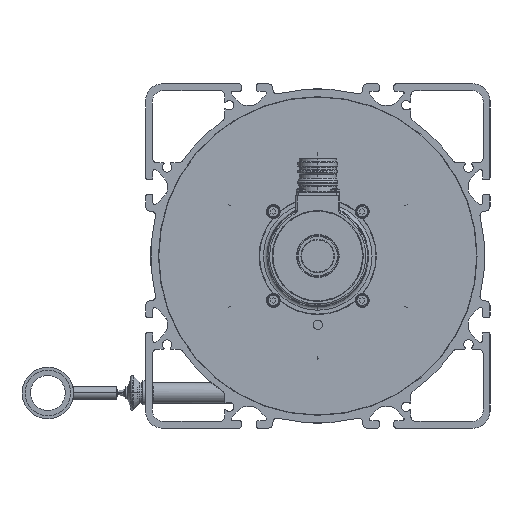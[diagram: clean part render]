
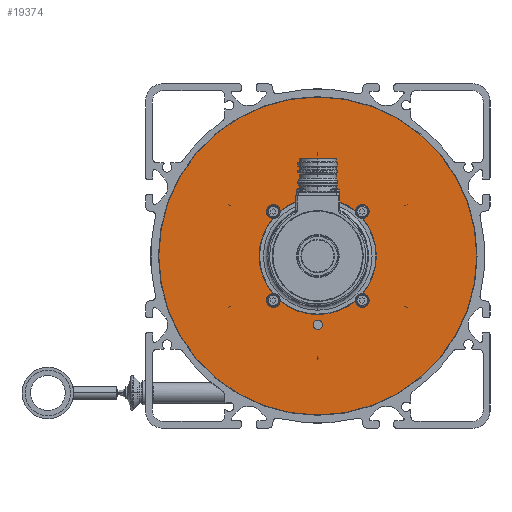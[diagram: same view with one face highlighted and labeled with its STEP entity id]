
A CAD part, left-side view. The second image highlights one B-rep face of the part: STEP entity #19374.
In plain terms, the highlighted planar face has unit normal (-1, 0, 0) as drawn and (1, 0, 0) by its records, which use the part's own axes.
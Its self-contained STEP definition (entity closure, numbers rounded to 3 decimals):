
#18146=CARTESIAN_POINT('',(8.,0.,0.));
#18147=DIRECTION('',(-1.,0.,0.));
#18148=DIRECTION('',(0.,1.,0.));
#18149=AXIS2_PLACEMENT_3D('',#18146,#18147,#18148);
#18154=CARTESIAN_POINT('',(8.,0.,0.));
#18155=DIRECTION('',(1.,0.,0.));
#18156=DIRECTION('',(0.,1.,0.));
#18157=AXIS2_PLACEMENT_3D('',#18154,#18155,#18156);
#18162=CARTESIAN_POINT('',(8.,-25.809,-25.809));
#18163=DIRECTION('',(1.,0.,0.));
#18164=DIRECTION('',(0.,-1.,0.));
#18165=AXIS2_PLACEMENT_3D('',#18162,#18163,#18164);
#18170=CARTESIAN_POINT('',(8.,-25.809,-25.809));
#18171=DIRECTION('',(1.,0.,0.));
#18172=DIRECTION('',(0.,1.,0.));
#18173=AXIS2_PLACEMENT_3D('',#18170,#18171,#18172);
#18178=CARTESIAN_POINT('',(8.,-25.809,25.809));
#18179=DIRECTION('',(1.,0.,0.));
#18180=DIRECTION('',(0.,0.,1.));
#18181=AXIS2_PLACEMENT_3D('',#18178,#18179,#18180);
#18186=CARTESIAN_POINT('',(8.,-25.809,25.809));
#18187=DIRECTION('',(1.,0.,0.));
#18188=DIRECTION('',(0.,0.,-1.));
#18189=AXIS2_PLACEMENT_3D('',#18186,#18187,#18188);
#18194=CARTESIAN_POINT('',(8.,25.809,25.809));
#18195=DIRECTION('',(1.,0.,0.));
#18196=DIRECTION('',(0.,1.,0.));
#18197=AXIS2_PLACEMENT_3D('',#18194,#18195,#18196);
#18202=CARTESIAN_POINT('',(8.,25.809,25.809));
#18203=DIRECTION('',(1.,0.,0.));
#18204=DIRECTION('',(0.,-1.,0.));
#18205=AXIS2_PLACEMENT_3D('',#18202,#18203,#18204);
#18210=CARTESIAN_POINT('',(8.,25.809,-25.809));
#18211=DIRECTION('',(1.,0.,0.));
#18212=DIRECTION('',(0.,0.,-1.));
#18213=AXIS2_PLACEMENT_3D('',#18210,#18211,#18212);
#18218=CARTESIAN_POINT('',(8.,25.809,-25.809));
#18219=DIRECTION('',(1.,0.,0.));
#18220=DIRECTION('',(0.,0.,1.));
#18221=AXIS2_PLACEMENT_3D('',#18218,#18219,#18220);
#18226=CARTESIAN_POINT('',(8.,40.,0.));
#18227=DIRECTION('',(1.,0.,0.));
#18228=DIRECTION('',(0.,-1.,0.));
#18229=AXIS2_PLACEMENT_3D('',#18226,#18227,#18228);
#18234=CARTESIAN_POINT('',(8.,40.,0.));
#18235=DIRECTION('',(1.,0.,0.));
#18236=DIRECTION('',(0.,1.,0.));
#18237=AXIS2_PLACEMENT_3D('',#18234,#18235,#18236);
#18242=CARTESIAN_POINT('',(8.,-40.,0.));
#18243=DIRECTION('',(1.,0.,0.));
#18244=DIRECTION('',(0.,1.,0.));
#18245=AXIS2_PLACEMENT_3D('',#18242,#18243,#18244);
#18250=CARTESIAN_POINT('',(8.,-40.,0.));
#18251=DIRECTION('',(1.,0.,0.));
#18252=DIRECTION('',(0.,-1.,0.));
#18253=AXIS2_PLACEMENT_3D('',#18250,#18251,#18252);
#18258=CARTESIAN_POINT('',(8.,0.,0.));
#18259=DIRECTION('',(-1.,0.,0.));
#18260=DIRECTION('',(0.,1.,0.));
#18261=AXIS2_PLACEMENT_3D('',#18258,#18259,#18260);
#18266=CARTESIAN_POINT('',(8.,0.,0.));
#18267=DIRECTION('',(-1.,0.,0.));
#18268=DIRECTION('',(0.,-1.,0.));
#18269=AXIS2_PLACEMENT_3D('',#18266,#18267,#18268);
#19054=CARTESIAN_POINT('',(8.,34.02,0.));
#19055=CARTESIAN_POINT('',(8.,-34.02,0.));
#19056=VERTEX_POINT('',#19054);
#19057=VERTEX_POINT('',#19055);
#19062=CARTESIAN_POINT('',(8.,37.35,0.));
#19063=CARTESIAN_POINT('',(8.,42.65,0.));
#19064=VERTEX_POINT('',#19062);
#19065=VERTEX_POINT('',#19063);
#19066=CARTESIAN_POINT('',(8.,-37.35,0.));
#19067=CARTESIAN_POINT('',(8.,-42.65,0.));
#19068=VERTEX_POINT('',#19066);
#19069=VERTEX_POINT('',#19067);
#19110=CARTESIAN_POINT('',(8.,-28.159,-25.809));
#19111=CARTESIAN_POINT('',(8.,-23.459,-25.809));
#19112=VERTEX_POINT('',#19110);
#19113=VERTEX_POINT('',#19111);
#19118=CARTESIAN_POINT('',(8.,-25.809,28.159));
#19119=CARTESIAN_POINT('',(8.,-25.809,23.459));
#19120=VERTEX_POINT('',#19118);
#19121=VERTEX_POINT('',#19119);
#19126=CARTESIAN_POINT('',(8.,28.159,25.809));
#19127=CARTESIAN_POINT('',(8.,23.459,25.809));
#19128=VERTEX_POINT('',#19126);
#19129=VERTEX_POINT('',#19127);
#19134=CARTESIAN_POINT('',(8.,25.809,-28.159));
#19135=CARTESIAN_POINT('',(8.,25.809,-23.459));
#19136=VERTEX_POINT('',#19134);
#19137=VERTEX_POINT('',#19135);
#19142=CARTESIAN_POINT('',(8.,92.3,0.));
#19143=CARTESIAN_POINT('',(8.,-92.3,0.));
#19144=VERTEX_POINT('',#19142);
#19145=VERTEX_POINT('',#19143);
#19323=CARTESIAN_POINT('',(8.,0.,0.));
#19324=DIRECTION('',(1.,0.,0.));
#19325=DIRECTION('',(0.,-1.,0.));
#19326=AXIS2_PLACEMENT_3D('',#19323,#19324,#19325);
#19327=PLANE('',#19326);
#19329=ORIENTED_EDGE('',*,*,#19328,.T.);
#19331=ORIENTED_EDGE('',*,*,#19330,.T.);
#19332=EDGE_LOOP('',(#19329,#19331));
#19333=FACE_OUTER_BOUND('',#19332,.F.);
#19335=ORIENTED_EDGE('',*,*,#19334,.T.);
#19337=ORIENTED_EDGE('',*,*,#19336,.T.);
#19338=EDGE_LOOP('',(#19335,#19337));
#19339=FACE_BOUND('',#19338,.F.);
#19341=ORIENTED_EDGE('',*,*,#19340,.T.);
#19343=ORIENTED_EDGE('',*,*,#19342,.T.);
#19344=EDGE_LOOP('',(#19341,#19343));
#19345=FACE_BOUND('',#19344,.F.);
#19347=ORIENTED_EDGE('',*,*,#19346,.T.);
#19349=ORIENTED_EDGE('',*,*,#19348,.T.);
#19350=EDGE_LOOP('',(#19347,#19349));
#19351=FACE_BOUND('',#19350,.F.);
#19353=ORIENTED_EDGE('',*,*,#19352,.T.);
#19355=ORIENTED_EDGE('',*,*,#19354,.T.);
#19356=EDGE_LOOP('',(#19353,#19355));
#19357=FACE_BOUND('',#19356,.F.);
#19359=ORIENTED_EDGE('',*,*,#19358,.T.);
#19361=ORIENTED_EDGE('',*,*,#19360,.T.);
#19362=EDGE_LOOP('',(#19359,#19361));
#19363=FACE_BOUND('',#19362,.F.);
#19365=ORIENTED_EDGE('',*,*,#19364,.T.);
#19367=ORIENTED_EDGE('',*,*,#19366,.T.);
#19368=EDGE_LOOP('',(#19365,#19367));
#19369=FACE_BOUND('',#19368,.F.);
#19370=ORIENTED_EDGE('',*,*,#19291,.F.);
#19371=ORIENTED_EDGE('',*,*,#19269,.T.);
#19372=EDGE_LOOP('',(#19370,#19371));
#19373=FACE_BOUND('',#19372,.F.);
#18150=CIRCLE('',#18149,34.02);
#18158=CIRCLE('',#18157,34.02);
#18166=CIRCLE('',#18165,2.35);
#18174=CIRCLE('',#18173,2.35);
#18182=CIRCLE('',#18181,2.35);
#18190=CIRCLE('',#18189,2.35);
#18198=CIRCLE('',#18197,2.35);
#18206=CIRCLE('',#18205,2.35);
#18214=CIRCLE('',#18213,2.35);
#18222=CIRCLE('',#18221,2.35);
#18230=CIRCLE('',#18229,2.65);
#18238=CIRCLE('',#18237,2.65);
#18246=CIRCLE('',#18245,2.65);
#18254=CIRCLE('',#18253,2.65);
#18262=CIRCLE('',#18261,92.3);
#18270=CIRCLE('',#18269,92.3);
#19269=EDGE_CURVE('',#19056,#19057,#18158,.T.);
#19291=EDGE_CURVE('',#19056,#19057,#18150,.T.);
#19328=EDGE_CURVE('',#19144,#19145,#18262,.T.);
#19330=EDGE_CURVE('',#19145,#19144,#18270,.T.);
#19334=EDGE_CURVE('',#19112,#19113,#18166,.T.);
#19336=EDGE_CURVE('',#19113,#19112,#18174,.T.);
#19340=EDGE_CURVE('',#19120,#19121,#18182,.T.);
#19342=EDGE_CURVE('',#19121,#19120,#18190,.T.);
#19346=EDGE_CURVE('',#19128,#19129,#18198,.T.);
#19348=EDGE_CURVE('',#19129,#19128,#18206,.T.);
#19352=EDGE_CURVE('',#19136,#19137,#18214,.T.);
#19354=EDGE_CURVE('',#19137,#19136,#18222,.T.);
#19358=EDGE_CURVE('',#19064,#19065,#18230,.T.);
#19360=EDGE_CURVE('',#19065,#19064,#18238,.T.);
#19364=EDGE_CURVE('',#19068,#19069,#18246,.T.);
#19366=EDGE_CURVE('',#19069,#19068,#18254,.T.);
#19374=ADVANCED_FACE('',(#19333,#19339,#19345,#19351,#19357,#19363,#19369,
#19373),#19327,.T.);
